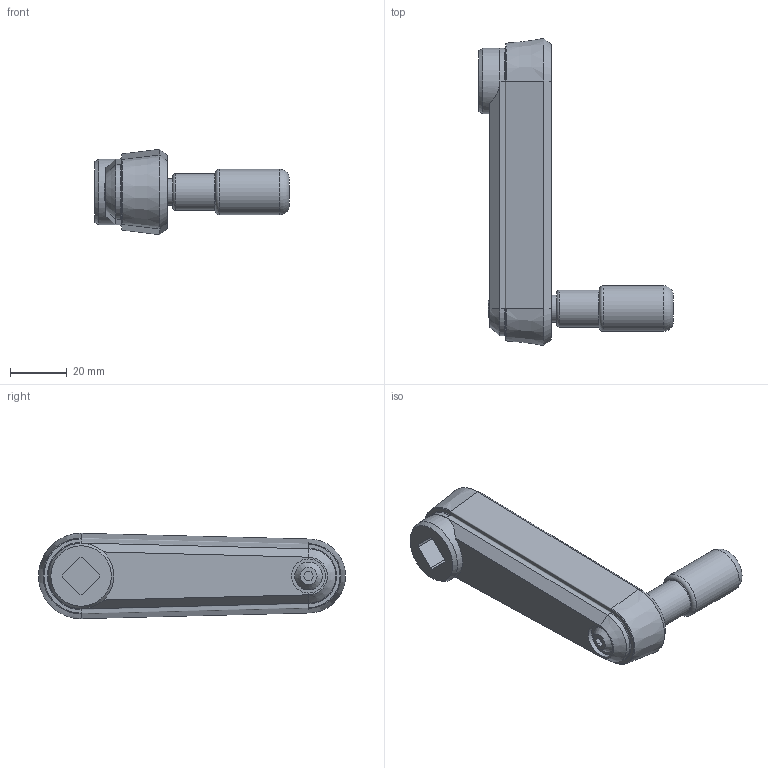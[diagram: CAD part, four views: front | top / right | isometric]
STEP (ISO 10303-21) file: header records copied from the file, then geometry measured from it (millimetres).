
FILE_DESCRIPTION( ( 'STEP AP203' ), '1' );
FILE_NAME( 'C:/Temp/Ganter_Step_05_03_2020/data/1_3/gn_472_3/Cranked handle with retractable handle GN 472.3-80-V10-SR (activated).stp', '2020-03-05T10:45:59', ( 'License CC BY-ND 4.0' ), ( 'CADENAS' ), ' ', 'PARTsolutions', ' ' );
FILE_SCHEMA( ( 'CONFIG_CONTROL_DESIGN' ) );
Length unit declared in the file: millimetre
Products named in the file (3): Cranked handle with retractable handle GN 472.3-80-V10-SR (activated); _Cranked handle with retractable handle GN 472.3-80-V10-SR (90)-1; _Cranked handle with retractable handle GN 472.3-80-V10-SR (90)-2
Assembly tree (2 placements, depth 2):
  Cranked handle with retractable handle GN 472.3-80-V10-SR (activated)
    _Cranked handle with retractable handle GN 472.3-80-V10-SR (90)-1
    _Cranked handle with retractable handle GN 472.3-80-V10-SR (90)-2
Bounding box: 68.56 x 108 x 30 mm (x, y, z)
Volume: 42500 mm3; surface area: 17812.3 mm2
Topology: 2 solids, 3 shells, 103 faces, 249 edges, 162 vertices
Faces by surface type: plane 52, cylinder 27, torus 11, cone 10, bspline 2, sphere 1
Full cylindrical faces by diameter (mm): 3 x2, 8 x1, 9.5 x1, 12 x1, 13 x1, 16 x1, 16.02 x1, 20 x2, 23 x1
Entity records: 3100 total; most frequent: CARTESIAN_POINT 687, DIRECTION 478, ORIENTED_EDGE 448, EDGE_CURVE 224, AXIS2_PLACEMENT_3D 186, VERTEX_POINT 157, EDGE_LOOP 136, FACE_OUTER_BOUND 119
